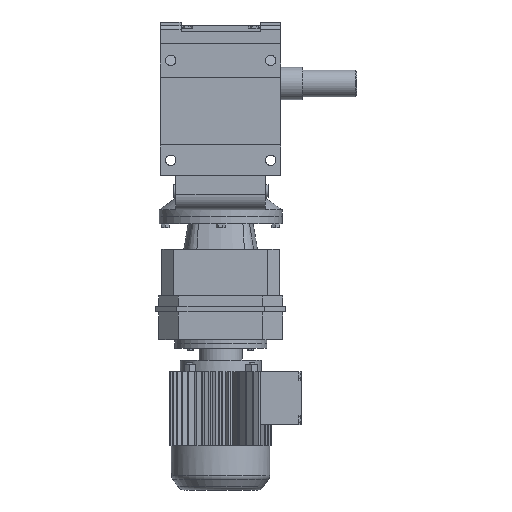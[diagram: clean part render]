
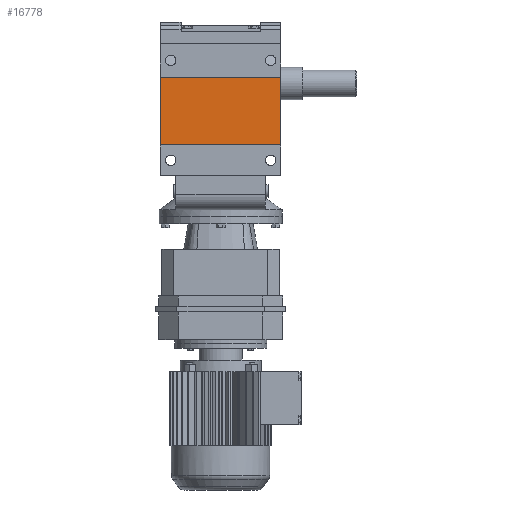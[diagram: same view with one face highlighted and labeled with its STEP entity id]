
A CAD part, front view. The second image highlights one B-rep face of the part: STEP entity #16778.
In plain terms, the highlighted planar face has unit normal (0, -1, 0).
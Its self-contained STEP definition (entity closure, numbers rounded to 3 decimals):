
#6331 = PLANE('',#6332);
#6332 = AXIS2_PLACEMENT_3D('',#6333,#6334,#6335);
#6333 = CARTESIAN_POINT('',(-78.5,-101.38,54.));
#6334 = DIRECTION('',(1.,0.,0.));
#6335 = DIRECTION('',(0.,0.,-1.));
#8252 = PLANE('',#8253);
#8253 = AXIS2_PLACEMENT_3D('',#8254,#8255,#8256);
#8254 = CARTESIAN_POINT('',(78.5,-101.38,54.));
#8255 = DIRECTION('',(1.,0.,0.));
#8256 = DIRECTION('',(0.,0.,-1.));
#11578 = VERTEX_POINT('',#11579);
#11579 = CARTESIAN_POINT('',(-78.5,-127.38,-80.));
#11593 = PLANE('',#11594);
#11594 = AXIS2_PLACEMENT_3D('',#11595,#11596,#11597);
#11595 = CARTESIAN_POINT('',(78.5,-127.38,-80.));
#11596 = DIRECTION('',(0.,0.,-1.));
#11597 = DIRECTION('',(-1.,0.,0.));
#11605 = EDGE_CURVE('',#11606,#11578,#11608,.T.);
#11606 = VERTEX_POINT('',#11607);
#11607 = CARTESIAN_POINT('',(-78.5,-127.38,8.));
#11608 = SURFACE_CURVE('',#11609,(#11613,#11620),.PCURVE_S1.);
#11609 = LINE('',#11610,#11611);
#11610 = CARTESIAN_POINT('',(-78.5,-127.38,8.));
#11611 = VECTOR('',#11612,1.);
#11612 = DIRECTION('',(0.,0.,-1.));
#11613 = PCURVE('',#6331,#11614);
#11614 = DEFINITIONAL_REPRESENTATION('',(#11615),#11619);
#11615 = LINE('',#11616,#11617);
#11616 = CARTESIAN_POINT('',(46.,-26.));
#11617 = VECTOR('',#11618,1.);
#11618 = DIRECTION('',(1.,0.));
#11619 = ( GEOMETRIC_REPRESENTATION_CONTEXT(2) 
PARAMETRIC_REPRESENTATION_CONTEXT() REPRESENTATION_CONTEXT('2D SPACE',''
  ) );
#11620 = PCURVE('',#11621,#11626);
#11621 = PLANE('',#11622);
#11622 = AXIS2_PLACEMENT_3D('',#11623,#11624,#11625);
#11623 = CARTESIAN_POINT('',(58.25,-127.38,59.));
#11624 = DIRECTION('',(0.,1.,0.));
#11625 = DIRECTION('',(0.,0.,1.));
#11626 = DEFINITIONAL_REPRESENTATION('',(#11627),#11631);
#11627 = LINE('',#11628,#11629);
#11628 = CARTESIAN_POINT('',(-51.,-136.75));
#11629 = VECTOR('',#11630,1.);
#11630 = DIRECTION('',(-1.,0.));
#11631 = ( GEOMETRIC_REPRESENTATION_CONTEXT(2) 
PARAMETRIC_REPRESENTATION_CONTEXT() REPRESENTATION_CONTEXT('2D SPACE',''
  ) );
#11649 = PLANE('',#11650);
#11650 = AXIS2_PLACEMENT_3D('',#11651,#11652,#11653);
#11651 = CARTESIAN_POINT('',(78.5,-127.38,8.));
#11652 = DIRECTION('',(0.,0.,1.));
#11653 = DIRECTION('',(0.,-1.,0.));
#14194 = VERTEX_POINT('',#14195);
#14195 = CARTESIAN_POINT('',(78.5,-127.38,8.));
#14216 = EDGE_CURVE('',#14194,#14217,#14219,.T.);
#14217 = VERTEX_POINT('',#14218);
#14218 = CARTESIAN_POINT('',(78.5,-127.38,-80.));
#14219 = SURFACE_CURVE('',#14220,(#14224,#14231),.PCURVE_S1.);
#14220 = LINE('',#14221,#14222);
#14221 = CARTESIAN_POINT('',(78.5,-127.38,8.));
#14222 = VECTOR('',#14223,1.);
#14223 = DIRECTION('',(0.,0.,-1.));
#14224 = PCURVE('',#8252,#14225);
#14225 = DEFINITIONAL_REPRESENTATION('',(#14226),#14230);
#14226 = LINE('',#14227,#14228);
#14227 = CARTESIAN_POINT('',(46.,-26.));
#14228 = VECTOR('',#14229,1.);
#14229 = DIRECTION('',(1.,0.));
#14230 = ( GEOMETRIC_REPRESENTATION_CONTEXT(2) 
PARAMETRIC_REPRESENTATION_CONTEXT() REPRESENTATION_CONTEXT('2D SPACE',''
  ) );
#14231 = PCURVE('',#11621,#14232);
#14232 = DEFINITIONAL_REPRESENTATION('',(#14233),#14237);
#14233 = LINE('',#14234,#14235);
#14234 = CARTESIAN_POINT('',(-51.,20.25));
#14235 = VECTOR('',#14236,1.);
#14236 = DIRECTION('',(-1.,0.));
#14237 = ( GEOMETRIC_REPRESENTATION_CONTEXT(2) 
PARAMETRIC_REPRESENTATION_CONTEXT() REPRESENTATION_CONTEXT('2D SPACE',''
  ) );
#16778 = ADVANCED_FACE('',(#16779),#11621,.F.);
#16779 = FACE_BOUND('',#16780,.T.);
#16780 = EDGE_LOOP('',(#16781,#16802,#16803,#16824));
#16781 = ORIENTED_EDGE('',*,*,#16782,.T.);
#16782 = EDGE_CURVE('',#14194,#11606,#16783,.T.);
#16783 = SURFACE_CURVE('',#16784,(#16788,#16795),.PCURVE_S1.);
#16784 = LINE('',#16785,#16786);
#16785 = CARTESIAN_POINT('',(78.5,-127.38,8.));
#16786 = VECTOR('',#16787,1.);
#16787 = DIRECTION('',(-1.,0.,0.));
#16788 = PCURVE('',#11621,#16789);
#16789 = DEFINITIONAL_REPRESENTATION('',(#16790),#16794);
#16790 = LINE('',#16791,#16792);
#16791 = CARTESIAN_POINT('',(-51.,20.25));
#16792 = VECTOR('',#16793,1.);
#16793 = DIRECTION('',(0.,-1.));
#16794 = ( GEOMETRIC_REPRESENTATION_CONTEXT(2) 
PARAMETRIC_REPRESENTATION_CONTEXT() REPRESENTATION_CONTEXT('2D SPACE',''
  ) );
#16795 = PCURVE('',#11649,#16796);
#16796 = DEFINITIONAL_REPRESENTATION('',(#16797),#16801);
#16797 = LINE('',#16798,#16799);
#16798 = CARTESIAN_POINT('',(0.,0.));
#16799 = VECTOR('',#16800,1.);
#16800 = DIRECTION('',(0.,-1.));
#16801 = ( GEOMETRIC_REPRESENTATION_CONTEXT(2) 
PARAMETRIC_REPRESENTATION_CONTEXT() REPRESENTATION_CONTEXT('2D SPACE',''
  ) );
#16802 = ORIENTED_EDGE('',*,*,#11605,.T.);
#16803 = ORIENTED_EDGE('',*,*,#16804,.F.);
#16804 = EDGE_CURVE('',#14217,#11578,#16805,.T.);
#16805 = SURFACE_CURVE('',#16806,(#16810,#16817),.PCURVE_S1.);
#16806 = LINE('',#16807,#16808);
#16807 = CARTESIAN_POINT('',(78.5,-127.38,-80.));
#16808 = VECTOR('',#16809,1.);
#16809 = DIRECTION('',(-1.,0.,0.));
#16810 = PCURVE('',#11621,#16811);
#16811 = DEFINITIONAL_REPRESENTATION('',(#16812),#16816);
#16812 = LINE('',#16813,#16814);
#16813 = CARTESIAN_POINT('',(-139.,20.25));
#16814 = VECTOR('',#16815,1.);
#16815 = DIRECTION('',(0.,-1.));
#16816 = ( GEOMETRIC_REPRESENTATION_CONTEXT(2) 
PARAMETRIC_REPRESENTATION_CONTEXT() REPRESENTATION_CONTEXT('2D SPACE',''
  ) );
#16817 = PCURVE('',#11593,#16818);
#16818 = DEFINITIONAL_REPRESENTATION('',(#16819),#16823);
#16819 = LINE('',#16820,#16821);
#16820 = CARTESIAN_POINT('',(0.,0.));
#16821 = VECTOR('',#16822,1.);
#16822 = DIRECTION('',(1.,0.));
#16823 = ( GEOMETRIC_REPRESENTATION_CONTEXT(2) 
PARAMETRIC_REPRESENTATION_CONTEXT() REPRESENTATION_CONTEXT('2D SPACE',''
  ) );
#16824 = ORIENTED_EDGE('',*,*,#14216,.F.);
